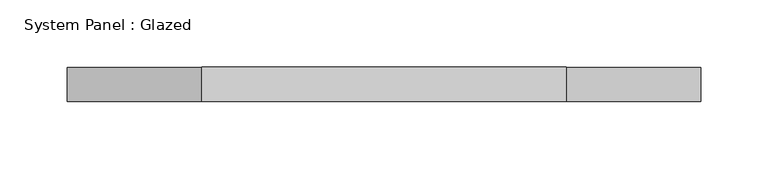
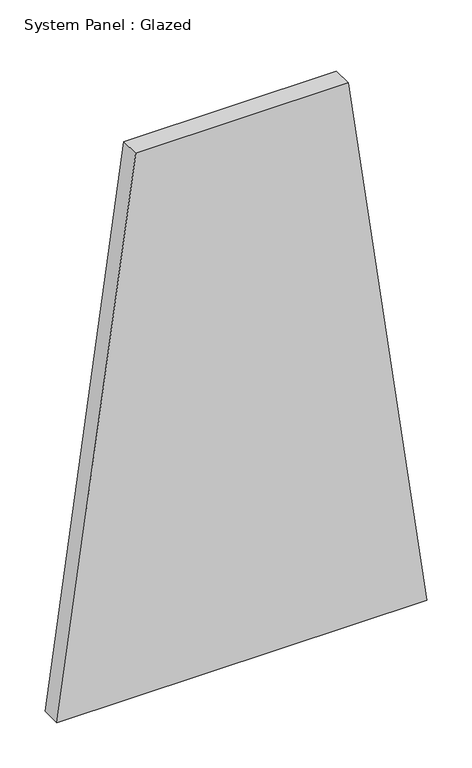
"""IFC4 building model written with IfcOpenShell, lengths in millimetres: plate geometry, System Panel : Glazed."""

from ifc_helpers import new_model, si_unit, frame, origin, place, context, project, spatial, polyline, outline, extrude, source, transform, mapped, element, save


def system_panel_glazed_475a38df(model_context):
    return source(origin(), model_context, "Body", "SweptSolid", [
        extrude(outline(polyline([(0.0, -234.6997221), (0.0, 234.6997221), (729.5777133, 134.9604247), (729.5777133, -134.9604247), (0.0, -234.6997221)])), frame((0.0, -44.45, 0.0), z_axis=(0.0, 1.0, 0.0), x_axis=(0.0, 0.0, 1.0)), (0.0, 0.0, 1.0), 25.4),
    ])


if __name__ == "__main__":
    model = new_model("IFC4")
    model_context = context("Model", 3, world=origin())
    ifc_project = project(units=[si_unit("LENGTHUNIT", "METRE", prefix="MILLI")], contexts=[model_context])
    site = spatial("IfcSite", under=ifc_project)
    building = spatial("IfcBuilding", under=site)
    placement = place(None, origin())
    system_panel_glazed_shape = system_panel_glazed_475a38df(model_context)
    element("IfcPlate", 1, ObjectType="System Panel : Glazed", at=placement, inside=building, context=model_context, shape_type="MappedRepresentation", body=[
        mapped(system_panel_glazed_shape, transform((0.0, 0.0, 0.0), x_axis=(1.0, 0.0, 0.0), y_axis=(0.0, 1.0, 0.0), z_axis=(0.0, 0.0, 1.0))),
    ])
    save(model, "model.ifc")
